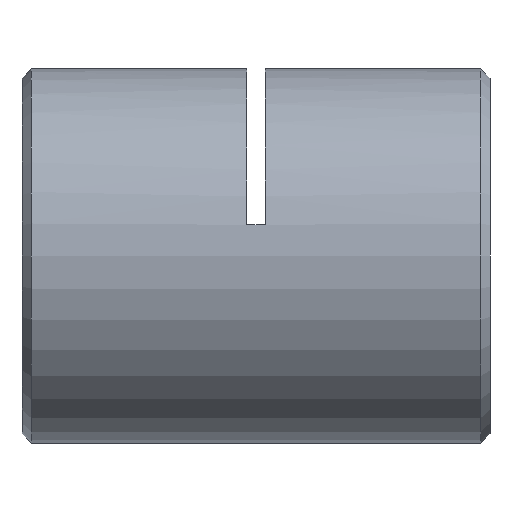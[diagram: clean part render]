
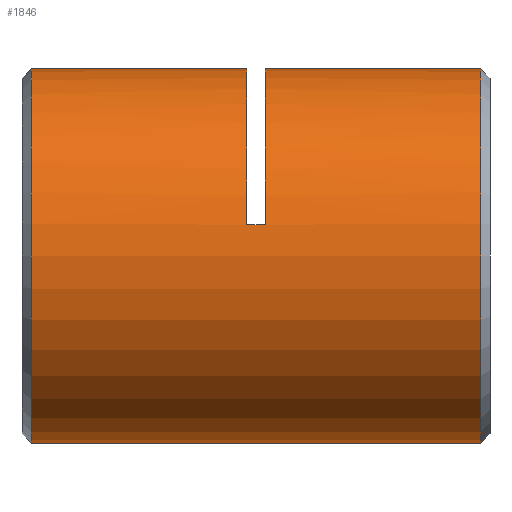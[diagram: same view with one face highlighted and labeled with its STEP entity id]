
A CAD part, left-side view. The second image highlights one B-rep face of the part: STEP entity #1846.
In plain terms, the highlighted cylindrical face has radius 10 mm (diameter 20 mm), a partial arc.
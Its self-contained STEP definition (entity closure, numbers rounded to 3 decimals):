
#85 = CARTESIAN_POINT ( 'NONE',  ( 0., 13.25, 0. ) ) ;
#95 = CARTESIAN_POINT ( 'NONE',  ( 0., 24.75, 10. ) ) ;
#106 = CARTESIAN_POINT ( 'NONE',  ( 0., 24.75, 0. ) ) ;
#141 = CARTESIAN_POINT ( 'NONE',  ( -9.86, 12.25, 1.667 ) ) ;
#145 = CIRCLE ( 'NONE', #3104, 10. ) ;
#146 = DIRECTION ( 'NONE',  ( 0., -1., 0. ) ) ;
#173 = CARTESIAN_POINT ( 'NONE',  ( 0., 0., 10. ) ) ;
#218 = CARTESIAN_POINT ( 'NONE',  ( 0., 0., -10. ) ) ;
#225 = EDGE_CURVE ( 'NONE', #725, #1313, #2918, .T. ) ;
#341 = EDGE_LOOP ( 'NONE', ( #2707, #1941, #2891, #3118, #3029, #2085, #3173, #3724 ) ) ;
#369 = DIRECTION ( 'NONE',  ( 0., 0., 1. ) ) ;
#385 = DIRECTION ( 'NONE',  ( 0., 0., 1. ) ) ;
#551 = LINE ( 'NONE', #644, #2796 ) ;
#644 = CARTESIAN_POINT ( 'NONE',  ( -9.86, 12.75, 1.667 ) ) ;
#725 = VERTEX_POINT ( 'NONE', #1488 ) ;
#905 = DIRECTION ( 'NONE',  ( 0., 0., 1. ) ) ;
#937 = AXIS2_PLACEMENT_3D ( 'NONE', #85, #2409, #2717 ) ;
#1042 = EDGE_CURVE ( 'NONE', #1313, #3354, #1293, .T. ) ;
#1044 = DIRECTION ( 'NONE',  ( 0., 1., 0. ) ) ;
#1097 = CARTESIAN_POINT ( 'NONE',  ( 0., 12.25, 10. ) ) ;
#1158 = EDGE_CURVE ( 'NONE', #1731, #2306, #3502, .T. ) ;
#1257 = EDGE_CURVE ( 'NONE', #2879, #2884, #1556, .T. ) ;
#1293 = LINE ( 'NONE', #3536, #1823 ) ;
#1309 = DIRECTION ( 'NONE',  ( 0., 0., -1. ) ) ;
#1313 = VERTEX_POINT ( 'NONE', #1405 ) ;
#1377 = VECTOR ( 'NONE', #2283, 1000. ) ;
#1405 = CARTESIAN_POINT ( 'NONE',  ( 0., 13.25, 10. ) ) ;
#1420 = EDGE_CURVE ( 'NONE', #2217, #2306, #145, .T. ) ;
#1444 = EDGE_CURVE ( 'NONE', #3354, #2884, #2368, .T. ) ;
#1488 = CARTESIAN_POINT ( 'NONE',  ( -9.86, 13.25, 1.667 ) ) ;
#1532 = DIRECTION ( 'NONE',  ( 0., 1., 0. ) ) ;
#1547 = DIRECTION ( 'NONE',  ( 0., 1., 0. ) ) ;
#1556 = LINE ( 'NONE', #218, #1377 ) ;
#1601 = CARTESIAN_POINT ( 'NONE',  ( 0., 0.75, -10. ) ) ;
#1720 = FACE_OUTER_BOUND ( 'NONE', #341, .T. ) ;
#1729 = CIRCLE ( 'NONE', #1971, 10. ) ;
#1731 = VERTEX_POINT ( 'NONE', #2550 ) ;
#1823 = VECTOR ( 'NONE', #1877, 1000. ) ;
#1846 = ADVANCED_FACE ( 'NONE', ( #1720 ), #2819, .T. ) ;
#1877 = DIRECTION ( 'NONE',  ( 0., 1., 0. ) ) ;
#1941 = ORIENTED_EDGE ( 'NONE', *, *, #3753, .T. ) ;
#1971 = AXIS2_PLACEMENT_3D ( 'NONE', #2365, #1532, #369 ) ;
#2029 = CARTESIAN_POINT ( 'NONE',  ( 0., 12.25, 0. ) ) ;
#2085 = ORIENTED_EDGE ( 'NONE', *, *, #225, .T. ) ;
#2217 = VERTEX_POINT ( 'NONE', #141 ) ;
#2283 = DIRECTION ( 'NONE',  ( 0., 1., 0. ) ) ;
#2306 = VERTEX_POINT ( 'NONE', #1097 ) ;
#2361 = CARTESIAN_POINT ( 'NONE',  ( 0., 0., 0. ) ) ;
#2365 = CARTESIAN_POINT ( 'NONE',  ( 0., 0.75, 0. ) ) ;
#2368 = CIRCLE ( 'NONE', #3221, 10. ) ;
#2409 = DIRECTION ( 'NONE',  ( 0., 1., 0. ) ) ;
#2550 = CARTESIAN_POINT ( 'NONE',  ( 0., 0.75, 10. ) ) ;
#2582 = AXIS2_PLACEMENT_3D ( 'NONE', #2361, #3475, #905 ) ;
#2707 = ORIENTED_EDGE ( 'NONE', *, *, #1257, .F. ) ;
#2717 = DIRECTION ( 'NONE',  ( 0., 0., 1. ) ) ;
#2796 = VECTOR ( 'NONE', #3549, 1000. ) ;
#2819 = CYLINDRICAL_SURFACE ( 'NONE', #2582, 10. ) ;
#2879 = VERTEX_POINT ( 'NONE', #1601 ) ;
#2884 = VERTEX_POINT ( 'NONE', #3648 ) ;
#2891 = ORIENTED_EDGE ( 'NONE', *, *, #1158, .T. ) ;
#2918 = CIRCLE ( 'NONE', #937, 10. ) ;
#3029 = ORIENTED_EDGE ( 'NONE', *, *, #3774, .T. ) ;
#3104 = AXIS2_PLACEMENT_3D ( 'NONE', #2029, #1547, #385 ) ;
#3118 = ORIENTED_EDGE ( 'NONE', *, *, #1420, .F. ) ;
#3173 = ORIENTED_EDGE ( 'NONE', *, *, #1042, .T. ) ;
#3221 = AXIS2_PLACEMENT_3D ( 'NONE', #106, #146, #1309 ) ;
#3223 = VECTOR ( 'NONE', #1044, 1000. ) ;
#3354 = VERTEX_POINT ( 'NONE', #95 ) ;
#3475 = DIRECTION ( 'NONE',  ( 0., 1., 0. ) ) ;
#3502 = LINE ( 'NONE', #173, #3223 ) ;
#3536 = CARTESIAN_POINT ( 'NONE',  ( 0., 0., 10. ) ) ;
#3549 = DIRECTION ( 'NONE',  ( 0., 1., 0. ) ) ;
#3648 = CARTESIAN_POINT ( 'NONE',  ( 0., 24.75, -10. ) ) ;
#3724 = ORIENTED_EDGE ( 'NONE', *, *, #1444, .T. ) ;
#3753 = EDGE_CURVE ( 'NONE', #2879, #1731, #1729, .T. ) ;
#3774 = EDGE_CURVE ( 'NONE', #2217, #725, #551, .T. ) ;
